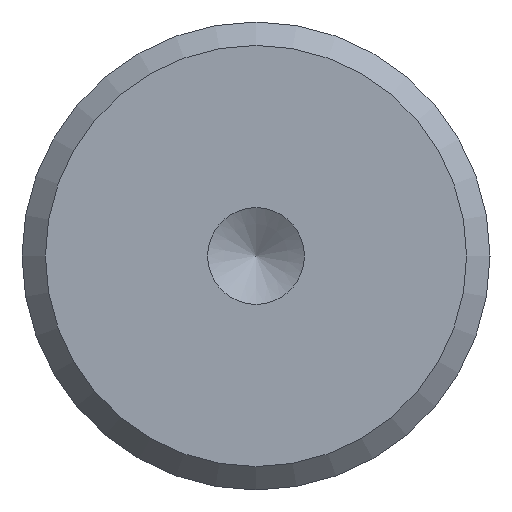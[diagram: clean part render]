
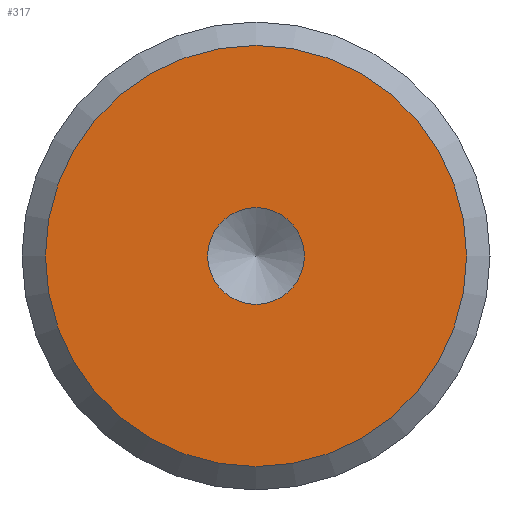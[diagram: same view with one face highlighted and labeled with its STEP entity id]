
A CAD part, left-side view. The second image highlights one B-rep face of the part: STEP entity #317.
In plain terms, the highlighted planar face has unit normal (-1, 0, 0).
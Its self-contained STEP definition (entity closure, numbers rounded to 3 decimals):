
#17=FACE_BOUND('',#68,.T.);
#24=PLANE('',#368);
#47=FACE_OUTER_BOUND('',#67,.T.);
#67=EDGE_LOOP('',(#255));
#68=EDGE_LOOP('',(#256));
#124=CIRCLE('',#367,2.067);
#125=CIRCLE('',#369,9.);
#156=VERTEX_POINT('',#583);
#157=VERTEX_POINT('',#587);
#192=EDGE_CURVE('',#156,#156,#124,.T.);
#194=EDGE_CURVE('',#157,#157,#125,.T.);
#255=ORIENTED_EDGE('',*,*,#194,.F.);
#256=ORIENTED_EDGE('',*,*,#192,.T.);
#317=ADVANCED_FACE('',(#47,#17),#24,.T.);
#367=AXIS2_PLACEMENT_3D('',#584,#440,#441);
#368=AXIS2_PLACEMENT_3D('',#586,#443,#444);
#369=AXIS2_PLACEMENT_3D('',#588,#445,#446);
#440=DIRECTION('center_axis',(1.,0.,0.));
#441=DIRECTION('ref_axis',(0.,0.,1.));
#443=DIRECTION('center_axis',(-1.,0.,0.));
#444=DIRECTION('ref_axis',(0.,0.,1.));
#445=DIRECTION('center_axis',(1.,0.,0.));
#446=DIRECTION('ref_axis',(0.,0.,-1.));
#583=CARTESIAN_POINT('',(0.,0.,-2.067));
#584=CARTESIAN_POINT('Origin',(0.,0.,0.));
#586=CARTESIAN_POINT('Origin',(0.,9.,0.));
#587=CARTESIAN_POINT('',(0.,-9.,0.));
#588=CARTESIAN_POINT('Origin',(0.,0.,0.));
